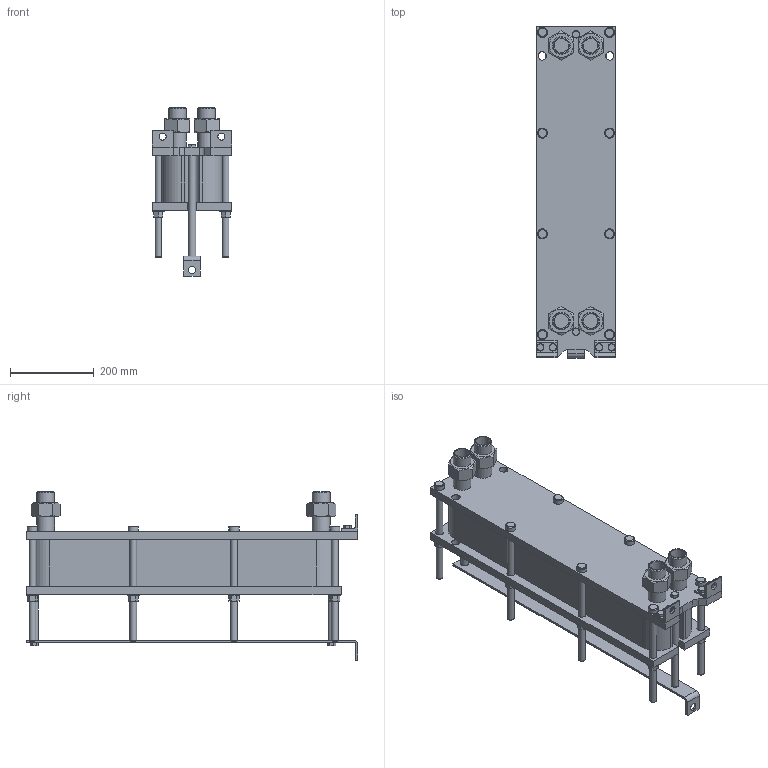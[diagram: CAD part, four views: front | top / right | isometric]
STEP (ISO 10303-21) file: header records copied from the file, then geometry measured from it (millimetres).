
FILE_DESCRIPTION(/* description */ (''),/* implementation_level */ '2;1');
FILE_NAME(/* name */ 'C:\Users\zhuro\Desktop\ENCO\TO\ЭН-008\ЭН-0,5-008-36-1.stp',/* time_stamp */ '2022-06-06T10:47:53+03:00',/* author */ ('zhuro'),/* organization */ (''),/* preprocessor_version */ 'ST-DEVELOPER v18.1',/* originating_system */ 'Autodesk Inventor 2022',/* authorisation */ '');
FILE_SCHEMA (('AUTOMOTIVE_DESIGN { 1 0 10303 214 3 1 1 }'));
Length unit declared in the file: millimetre
Products named in the file (1): ЭН-0,5-008-36-1
Bounding box: 190 x 790 x 401.8 mm (x, y, z)
Volume: 18077295.4 mm3; surface area: 1480159.6 mm2
Topology: 40 solids, 40 shells, 428 faces, 924 edges, 606 vertices
Faces by surface type: plane 273, cylinder 109, cone 40, torus 6
Full cylindrical faces by diameter (mm): 12 x6, 14 x2, 16 x20, 17 x8, 18 x19, 20 x5, 24 x8, 28 x8, 34.3 x8, 42.3 x8
Entity records: 15843 total; most frequent: CARTESIAN_POINT 5991, DIRECTION 1984, ORIENTED_EDGE 1848, EDGE_CURVE 924, AXIS2_PLACEMENT_3D 715, VERTEX_POINT 606, LINE 554, VECTOR 554
